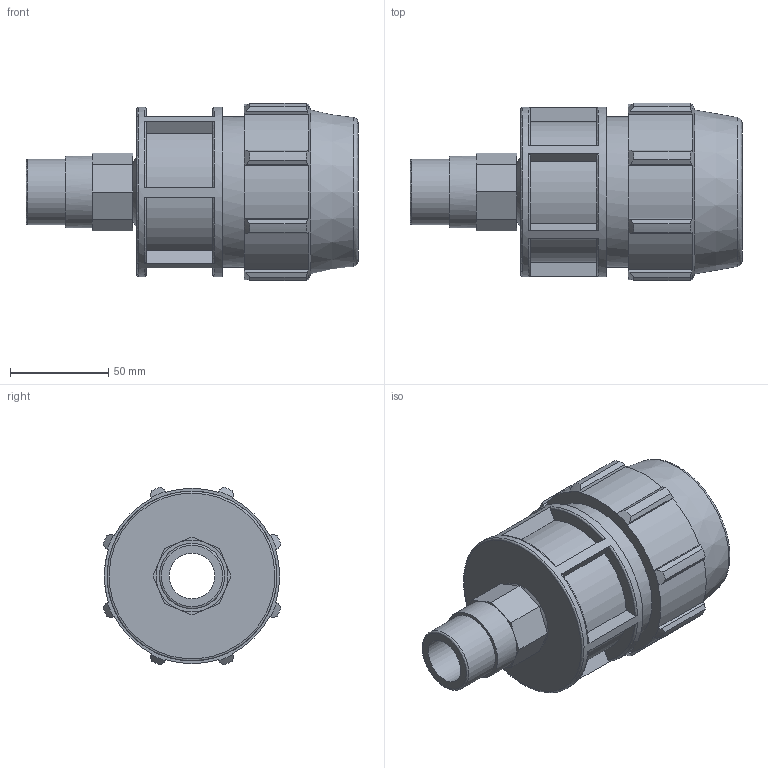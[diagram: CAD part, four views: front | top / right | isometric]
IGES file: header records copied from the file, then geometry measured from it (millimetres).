
Global section: file name: 077200050010_187200050010_0772060500100A.ipt; native system: Autodesk Inventor 2015; preprocessor: unknown; author: KIM; date: 20170606.174256; units: millimetre
Bounding box: 169 x 90.33 x 90.33 mm (x, y, z)
Volume: 402033.9 mm3; surface area: 77706.8 mm2
Topology: 1 solids, 1 shells, 137 faces, 367 edges, 244 vertices
Faces by surface type: plane 81, cylinder 26, revolution 19, cone 11
Full cylindrical faces by diameter (mm): 33.249 x1, 36.574 x1, 76.8 x1, 86.4 x1
